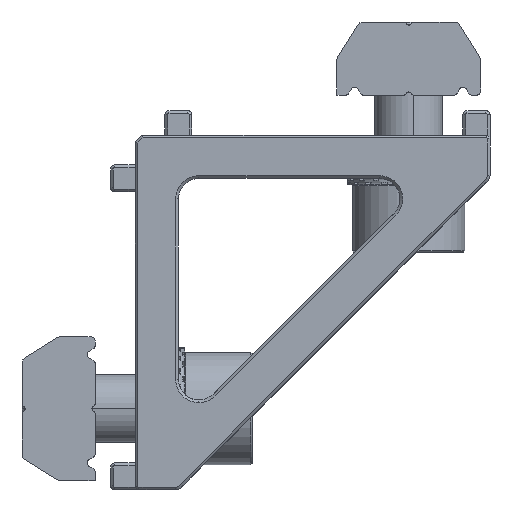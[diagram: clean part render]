
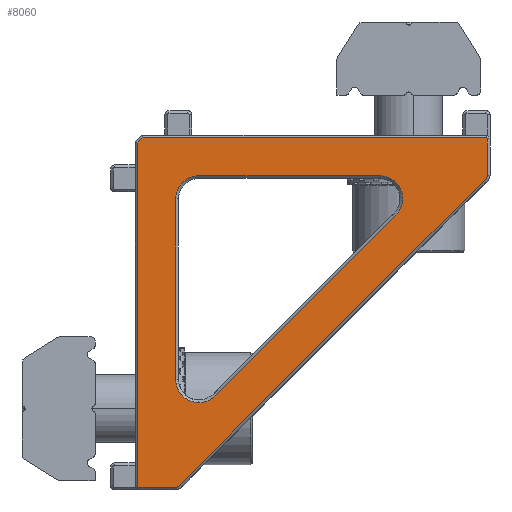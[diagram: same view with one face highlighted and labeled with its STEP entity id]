
A CAD part, front view. The second image highlights one B-rep face of the part: STEP entity #8060.
In plain terms, the highlighted planar face has unit normal (0, -1, 0).
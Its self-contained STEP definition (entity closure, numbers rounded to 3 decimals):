
#2 = CARTESIAN_POINT ( 'NONE',  ( 7.702, 0., -21.055 ) ) ;
#171 = DIRECTION ( 'NONE',  ( 0., 1., 0. ) ) ;
#237 = EDGE_LOOP ( 'NONE', ( #14418, #9174, #14050, #12564, #7112, #7176, #9274 ) ) ;
#317 = ORIENTED_EDGE ( 'NONE', *, *, #4426, .T. ) ;
#469 = CIRCLE ( 'NONE', #6473, 1.7 ) ;
#545 = VECTOR ( 'NONE', #6561, 1000. ) ;
#803 = CARTESIAN_POINT ( 'NONE',  ( 4.8, 0., -19.853 ) ) ;
#867 = DIRECTION ( 'NONE',  ( 0., 1., 0. ) ) ;
#1155 = ORIENTED_EDGE ( 'NONE', *, *, #2455, .T. ) ;
#1262 = CARTESIAN_POINT ( 'NONE',  ( 27.8, 0., 0. ) ) ;
#1401 = CARTESIAN_POINT ( 'NONE',  ( 6.5, 0., -6.5 ) ) ;
#1452 = DIRECTION ( 'NONE',  ( -1., 0., 0. ) ) ;
#1534 = CARTESIAN_POINT ( 'NONE',  ( 0., 0., -4.8 ) ) ;
#1775 = CARTESIAN_POINT ( 'NONE',  ( 6.5, 0., -4.8 ) ) ;
#1974 = LINE ( 'NONE', #17725, #4731 ) ;
#2455 = EDGE_CURVE ( 'NONE', #14226, #6830, #8599, .T. ) ;
#2847 = CARTESIAN_POINT ( 'NONE',  ( 6.5, 0., -19.853 ) ) ;
#2943 = VECTOR ( 'NONE', #11342, 1000. ) ;
#3042 = CARTESIAN_POINT ( 'NONE',  ( 2., 0., 0. ) ) ;
#3307 = LINE ( 'NONE', #16062, #12757 ) ;
#3412 = AXIS2_PLACEMENT_3D ( 'NONE', #13733, #867, #17167 ) ;
#3468 = CARTESIAN_POINT ( 'NONE',  ( 27.712, 0., -5.005 ) ) ;
#3487 = EDGE_CURVE ( 'NONE', #13741, #11133, #4349, .T. ) ;
#3511 = EDGE_CURVE ( 'NONE', #6335, #13680, #5264, .T. ) ;
#3541 = DIRECTION ( 'NONE',  ( 0., 1., 0. ) ) ;
#3769 = CARTESIAN_POINT ( 'NONE',  ( 27.5, 0., -4.793 ) ) ;
#4050 = EDGE_CURVE ( 'NONE', #15945, #11990, #9938, .T. ) ;
#4088 = DIRECTION ( 'NONE',  ( 0., 0., 1. ) ) ;
#4104 = ORIENTED_EDGE ( 'NONE', *, *, #3487, .T. ) ;
#4155 = FACE_OUTER_BOUND ( 'NONE', #9645, .T. ) ;
#4280 = VERTEX_POINT ( 'NONE', #5179 ) ;
#4309 = EDGE_CURVE ( 'NONE', #12890, #11152, #10069, .T. ) ;
#4311 = DIRECTION ( 'NONE',  ( 0., 0., 1. ) ) ;
#4349 = LINE ( 'NONE', #3042, #18124 ) ;
#4426 = EDGE_CURVE ( 'NONE', #11133, #15945, #11668, .T. ) ;
#4548 = CARTESIAN_POINT ( 'NONE',  ( 27.8, 0., -2.083 ) ) ;
#4731 = VECTOR ( 'NONE', #10636, 1000. ) ;
#5179 = CARTESIAN_POINT ( 'NONE',  ( 5.005, 0., -27.712 ) ) ;
#5205 = VERTEX_POINT ( 'NONE', #2 ) ;
#5254 = DIRECTION ( 'NONE',  ( 0., 0., 1. ) ) ;
#5264 = CIRCLE ( 'NONE', #14846, 1.7 ) ;
#5277 = PLANE ( 'NONE',  #3412 ) ;
#5316 = EDGE_CURVE ( 'NONE', #7855, #18225, #469, .T. ) ;
#5331 = DIRECTION ( 'NONE',  ( 1., 0., 0. ) ) ;
#5339 = EDGE_CURVE ( 'NONE', #5205, #6335, #7977, .T. ) ;
#5651 = CARTESIAN_POINT ( 'NONE',  ( 6.5, 0., -21.553 ) ) ;
#5758 = LINE ( 'NONE', #15715, #9259 ) ;
#5764 = CARTESIAN_POINT ( 'NONE',  ( 6.5, 0., -19.853 ) ) ;
#5797 = CARTESIAN_POINT ( 'NONE',  ( 2.383, 0., -2. ) ) ;
#6032 = DIRECTION ( 'NONE',  ( 0., 0., 1. ) ) ;
#6090 = CARTESIAN_POINT ( 'NONE',  ( 2., 0., -27.717 ) ) ;
#6335 = VERTEX_POINT ( 'NONE', #5651 ) ;
#6465 = CIRCLE ( 'NONE', #7669, 1.7 ) ;
#6473 = AXIS2_PLACEMENT_3D ( 'NONE', #16388, #3541, #7867 ) ;
#6561 = DIRECTION ( 'NONE',  ( 0.707, 0., 0.707 ) ) ;
#6744 = VECTOR ( 'NONE', #5331, 1000. ) ;
#6830 = VERTEX_POINT ( 'NONE', #5797 ) ;
#7006 = LINE ( 'NONE', #1262, #14055 ) ;
#7112 = ORIENTED_EDGE ( 'NONE', *, *, #16544, .T. ) ;
#7176 = ORIENTED_EDGE ( 'NONE', *, *, #5339, .T. ) ;
#7195 = LINE ( 'NONE', #1534, #2943 ) ;
#7348 = VECTOR ( 'NONE', #1452, 1000. ) ;
#7669 = AXIS2_PLACEMENT_3D ( 'NONE', #1401, #171, #4311 ) ;
#7826 = DIRECTION ( 'NONE',  ( 0., 0., 1. ) ) ;
#7855 = VERTEX_POINT ( 'NONE', #9394 ) ;
#7867 = DIRECTION ( 'NONE',  ( 0., 0., 1. ) ) ;
#7977 = CIRCLE ( 'NONE', #16959, 1.7 ) ;
#8060 = ADVANCED_FACE ( 'NONE', ( #18011, #4155 ), #5277, .F. ) ;
#8344 = CARTESIAN_POINT ( 'NONE',  ( 27.712, 0., -5.005 ) ) ;
#8383 = CARTESIAN_POINT ( 'NONE',  ( 27.659, 0., -1.941 ) ) ;
#8599 = LINE ( 'NONE', #14318, #7348 ) ;
#8650 = CARTESIAN_POINT ( 'NONE',  ( 27.8, 0., -4.793 ) ) ;
#8930 = CARTESIAN_POINT ( 'NONE',  ( 2.141, 0., -27.859 ) ) ;
#9100 = VERTEX_POINT ( 'NONE', #4548 ) ;
#9136 = ORIENTED_EDGE ( 'NONE', *, *, #13870, .T. ) ;
#9174 = ORIENTED_EDGE ( 'NONE', *, *, #9991, .T. ) ;
#9197 = AXIS2_PLACEMENT_3D ( 'NONE', #9230, #14937, #7826 ) ;
#9230 = CARTESIAN_POINT ( 'NONE',  ( 4.793, 0., -27.5 ) ) ;
#9259 = VECTOR ( 'NONE', #11605, 1000. ) ;
#9274 = ORIENTED_EDGE ( 'NONE', *, *, #3511, .T. ) ;
#9394 = CARTESIAN_POINT ( 'NONE',  ( 19.853, 0., -4.8 ) ) ;
#9452 = ORIENTED_EDGE ( 'NONE', *, *, #4309, .T. ) ;
#9510 = DIRECTION ( 'NONE',  ( 0., -1., 0. ) ) ;
#9530 = ORIENTED_EDGE ( 'NONE', *, *, #16564, .T. ) ;
#9645 = EDGE_LOOP ( 'NONE', ( #1155, #9136, #4104, #317, #18164, #16362, #17640, #9452, #9530, #12276 ) ) ;
#9769 = DIRECTION ( 'NONE',  ( 0., 1., 0. ) ) ;
#9894 = DIRECTION ( 'NONE',  ( 0., 0., 1. ) ) ;
#9938 = LINE ( 'NONE', #15725, #6744 ) ;
#9991 = EDGE_CURVE ( 'NONE', #17020, #17048, #6465, .T. ) ;
#10069 = CIRCLE ( 'NONE', #14238, 0.3 ) ;
#10636 = DIRECTION ( 'NONE',  ( -0.707, 0., -0.707 ) ) ;
#10677 = EDGE_CURVE ( 'NONE', #13680, #17020, #3307, .T. ) ;
#10711 = VECTOR ( 'NONE', #14096, 1000. ) ;
#11133 = VERTEX_POINT ( 'NONE', #6090 ) ;
#11152 = VERTEX_POINT ( 'NONE', #8650 ) ;
#11342 = DIRECTION ( 'NONE',  ( 1., 0., 0. ) ) ;
#11605 = DIRECTION ( 'NONE',  ( -0.707, 0., -0.707 ) ) ;
#11668 = LINE ( 'NONE', #8930, #12438 ) ;
#11990 = VERTEX_POINT ( 'NONE', #18295 ) ;
#12276 = ORIENTED_EDGE ( 'NONE', *, *, #16806, .T. ) ;
#12438 = VECTOR ( 'NONE', #12875, 1000. ) ;
#12513 = EDGE_CURVE ( 'NONE', #11990, #4280, #13384, .T. ) ;
#12564 = ORIENTED_EDGE ( 'NONE', *, *, #5316, .T. ) ;
#12757 = VECTOR ( 'NONE', #4088, 1000. ) ;
#12875 = DIRECTION ( 'NONE',  ( 0.707, 0., -0.707 ) ) ;
#12890 = VERTEX_POINT ( 'NONE', #3468 ) ;
#13125 = CARTESIAN_POINT ( 'NONE',  ( 27.717, 0., -2. ) ) ;
#13384 = CIRCLE ( 'NONE', #9197, 0.3 ) ;
#13680 = VERTEX_POINT ( 'NONE', #803 ) ;
#13733 = CARTESIAN_POINT ( 'NONE',  ( 0., 0., 0. ) ) ;
#13741 = VERTEX_POINT ( 'NONE', #13935 ) ;
#13870 = EDGE_CURVE ( 'NONE', #6830, #13741, #1974, .T. ) ;
#13935 = CARTESIAN_POINT ( 'NONE',  ( 2., 0., -2.383 ) ) ;
#14050 = ORIENTED_EDGE ( 'NONE', *, *, #15621, .T. ) ;
#14055 = VECTOR ( 'NONE', #18426, 1000. ) ;
#14096 = DIRECTION ( 'NONE',  ( -0.707, 0., 0.707 ) ) ;
#14226 = VERTEX_POINT ( 'NONE', #13125 ) ;
#14238 = AXIS2_PLACEMENT_3D ( 'NONE', #3769, #9510, #9894 ) ;
#14318 = CARTESIAN_POINT ( 'NONE',  ( 0., 0., -2. ) ) ;
#14418 = ORIENTED_EDGE ( 'NONE', *, *, #10677, .T. ) ;
#14611 = EDGE_CURVE ( 'NONE', #4280, #12890, #15446, .T. ) ;
#14846 = AXIS2_PLACEMENT_3D ( 'NONE', #2847, #17387, #6032 ) ;
#14937 = DIRECTION ( 'NONE',  ( 0., -1., 0. ) ) ;
#15227 = CARTESIAN_POINT ( 'NONE',  ( 2.083, 0., -27.8 ) ) ;
#15446 = LINE ( 'NONE', #8344, #545 ) ;
#15493 = LINE ( 'NONE', #8383, #10711 ) ;
#15621 = EDGE_CURVE ( 'NONE', #17048, #7855, #7195, .T. ) ;
#15715 = CARTESIAN_POINT ( 'NONE',  ( 7.702, 0., -21.055 ) ) ;
#15725 = CARTESIAN_POINT ( 'NONE',  ( 0., 0., -27.8 ) ) ;
#15945 = VERTEX_POINT ( 'NONE', #15227 ) ;
#16042 = CARTESIAN_POINT ( 'NONE',  ( 4.8, 0., -6.5 ) ) ;
#16062 = CARTESIAN_POINT ( 'NONE',  ( 4.8, 0., 0. ) ) ;
#16362 = ORIENTED_EDGE ( 'NONE', *, *, #12513, .T. ) ;
#16388 = CARTESIAN_POINT ( 'NONE',  ( 19.853, 0., -6.5 ) ) ;
#16544 = EDGE_CURVE ( 'NONE', #18225, #5205, #5758, .T. ) ;
#16564 = EDGE_CURVE ( 'NONE', #11152, #9100, #7006, .T. ) ;
#16795 = CARTESIAN_POINT ( 'NONE',  ( 21.055, 0., -7.702 ) ) ;
#16806 = EDGE_CURVE ( 'NONE', #9100, #14226, #15493, .T. ) ;
#16959 = AXIS2_PLACEMENT_3D ( 'NONE', #5764, #9769, #5254 ) ;
#17020 = VERTEX_POINT ( 'NONE', #16042 ) ;
#17048 = VERTEX_POINT ( 'NONE', #1775 ) ;
#17167 = DIRECTION ( 'NONE',  ( 0., 0., 1. ) ) ;
#17291 = DIRECTION ( 'NONE',  ( 0., 0., -1. ) ) ;
#17387 = DIRECTION ( 'NONE',  ( 0., 1., 0. ) ) ;
#17640 = ORIENTED_EDGE ( 'NONE', *, *, #14611, .T. ) ;
#17725 = CARTESIAN_POINT ( 'NONE',  ( 1.941, 0., -2.441 ) ) ;
#18011 = FACE_BOUND ( 'NONE', #237, .T. ) ;
#18124 = VECTOR ( 'NONE', #17291, 1000. ) ;
#18164 = ORIENTED_EDGE ( 'NONE', *, *, #4050, .T. ) ;
#18225 = VERTEX_POINT ( 'NONE', #16795 ) ;
#18295 = CARTESIAN_POINT ( 'NONE',  ( 4.793, 0., -27.8 ) ) ;
#18426 = DIRECTION ( 'NONE',  ( 0., 0., 1. ) ) ;
